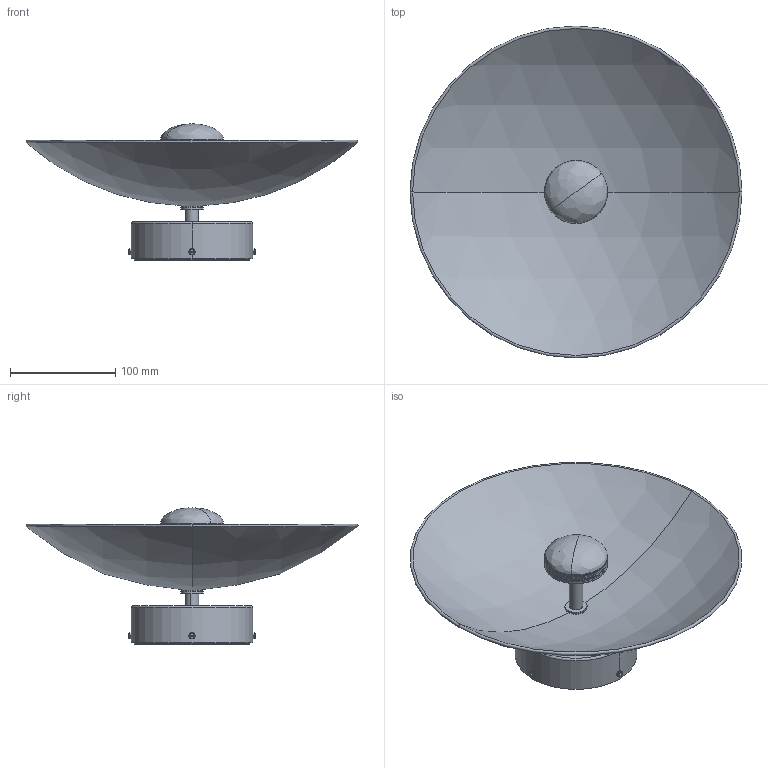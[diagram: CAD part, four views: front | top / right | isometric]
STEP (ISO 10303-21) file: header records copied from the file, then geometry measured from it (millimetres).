
FILE_DESCRIPTION (( 'STEP AP203' ), '1' );
FILE_NAME ('CTO-07-032-00.STEP', '2020-09-08T15:19:16', ( '' ), ( '' ), 'SwSTEP 2.0', 'SolidWorks 2020', '' );
FILE_SCHEMA (( 'CONFIG_CONTROL_DESIGN' ));
Length unit declared in the file: millimetre
Products named in the file (1): CTO-07-032-00
Bounding box: 316 x 316 x 129.71 mm (x, y, z)
Volume: 403744.5 mm3; surface area: 304153.1 mm2
Topology: 36 solids, 36 shells, 1407 faces, 3714 edges, 2435 vertices
Faces by surface type: cylinder 731, plane 503, bspline 90, cone 38, torus 35, sphere 10
Entity records: 91284 total; most frequent: CARTESIAN_POINT 58824, ORIENTED_EDGE 7416, DIRECTION 5950, EDGE_CURVE 3708, VERTEX_POINT 2435, AXIS2_PLACEMENT_3D 2120, VECTOR 1710, LINE 1710
